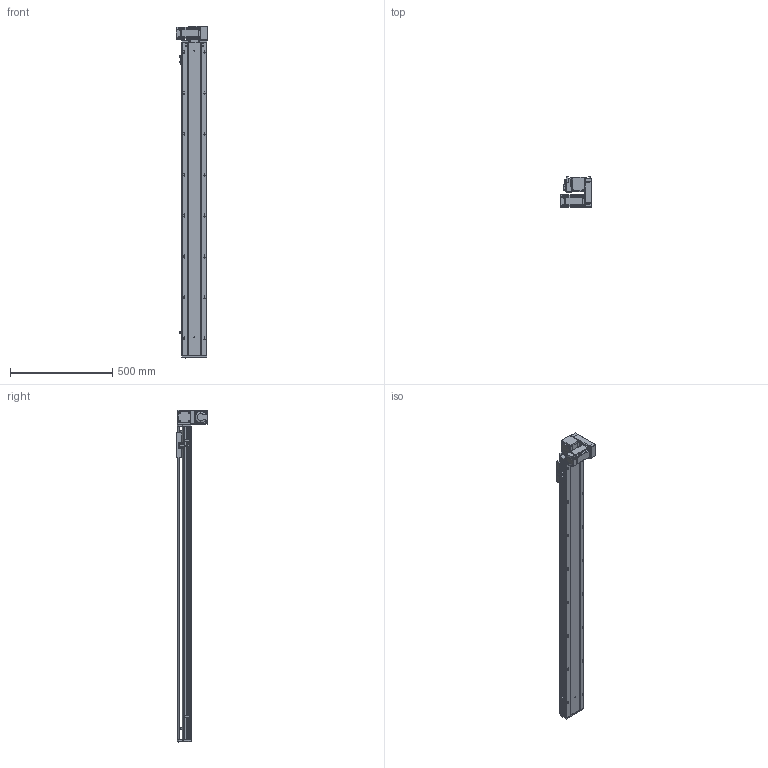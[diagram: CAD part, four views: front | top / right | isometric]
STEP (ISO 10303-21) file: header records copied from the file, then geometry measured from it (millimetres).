
FILE_DESCRIPTION (( 'STEP AP203' ), '1' );
FILE_NAME ('RY120-T-300-DR.SLDASM_1300.step', '2021-03-01T03:36:14', ( '盈信电脑' ), ( '东莞市道滘镇水果街19号' ), 'SwSTEP 2.0', 'SolidWorks 2012', '' );
FILE_SCHEMA (( 'CONFIG_CONTROL_DESIGN' ));
Length unit declared in the file: millimetre
Products named in the file (17): RY120-T萇儂欶; RY120-T主同步轮轴承压盖; RY120-T蹟翐M4; 15; RY120-T萇儂假蚾啣; RY120-T翋肮祭謫裔啣; 滅袉蝶18-10; RY120外置感应片(140共用）; RY120-T肮祭湍揤踡輸2; RY120-T肮祭湍揤踡輸1; RY120-T翋肮祭盓傅釱; 覜茼ん672; RY120肮祭湍臏賑輸; RY120綴裔啣; RY120-T-300-DR倰第奻裔啣_1300; RY120-T-300-DR倰第菁釱_1300; RY120-T-300-DR.SLDASM_1300
Assembly tree (22 placements, depth 2):
  RY120-T-300-DR.SLDASM_1300
    RY120-T-300-DR倰第菁釱_1300
    RY120-T-300-DR倰第奻裔啣_1300
    RY120肮祭湍臏賑輸
    RY120綴裔啣
    覜茼ん672  x3
    RY120外置感应片(140共用）
    RY120-T肮祭湍揤踡輸1
    RY120-T肮祭湍揤踡輸2
    RY120-T翋肮祭盓傅釱
    滅袉蝶18-10  x2
    RY120-T翋肮祭謫裔啣
    15
    RY120-T萇儂假蚾啣
    RY120-T蹟翐M4  x4
    RY120-T萇儂欶
    RY120-T主同步轮轴承压盖
Bounding box: 155.5 x 150 x 1621 mm (x, y, z)
Volume: 4274522.8 mm3; surface area: 1610706.6 mm2
Topology: 23 solids, 23 shells, 2894 faces, 7892 edges, 5048 vertices
Faces by surface type: plane 1422, cylinder 1112, cone 271, bspline 89
Entity records: 92195 total; most frequent: CARTESIAN_POINT 23554, ORIENTED_EDGE 14168, DIRECTION 13414, EDGE_CURVE 7084, VERTEX_POINT 4635, AXIS2_PLACEMENT_3D 4511, LINE 4392, VECTOR 4392
